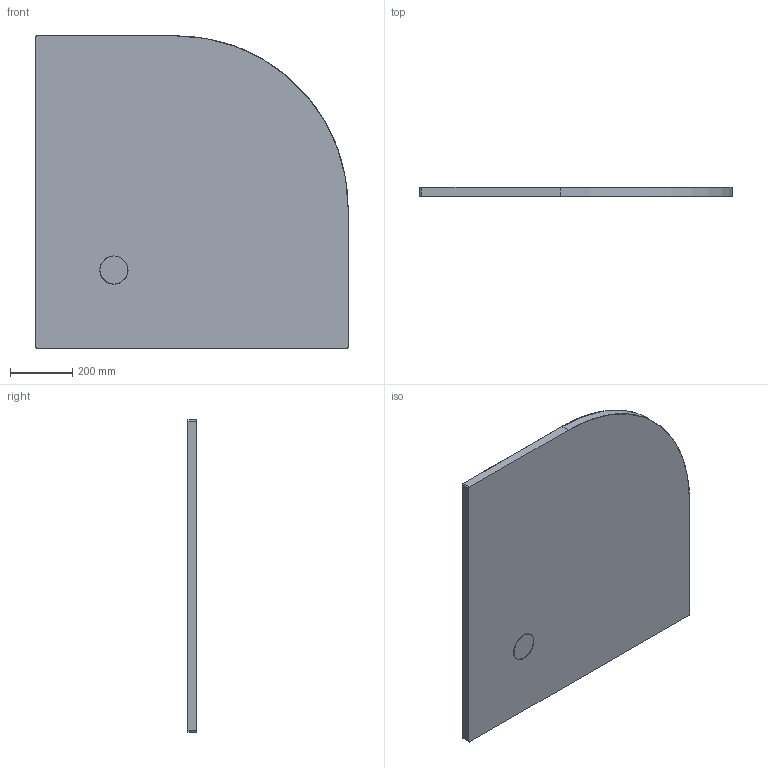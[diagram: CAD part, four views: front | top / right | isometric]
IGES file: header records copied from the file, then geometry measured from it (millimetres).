
Start section: SolidWorks IGES file using analytic representation for surfaces
Global section: file name: D:\Users\M.Szymanski\Desktop\Brodziki\Nias\BP_M_NIAS_100x100x1,5.IGS; native system: SolidWorks 2011; preprocessor: SolidWorks 2011; author: M.Szymanski; date: 180223.091508; units: millimetre
Bounding box: 1000 x 30 x 1000 mm (x, y, z)
Surface area: 2003208.2 mm2 (no closed solid volume)
Topology: 0 solids, 0 shells, 72 faces, 894 edges, 893 vertices
Faces by surface type: bspline 46, revolution 26
